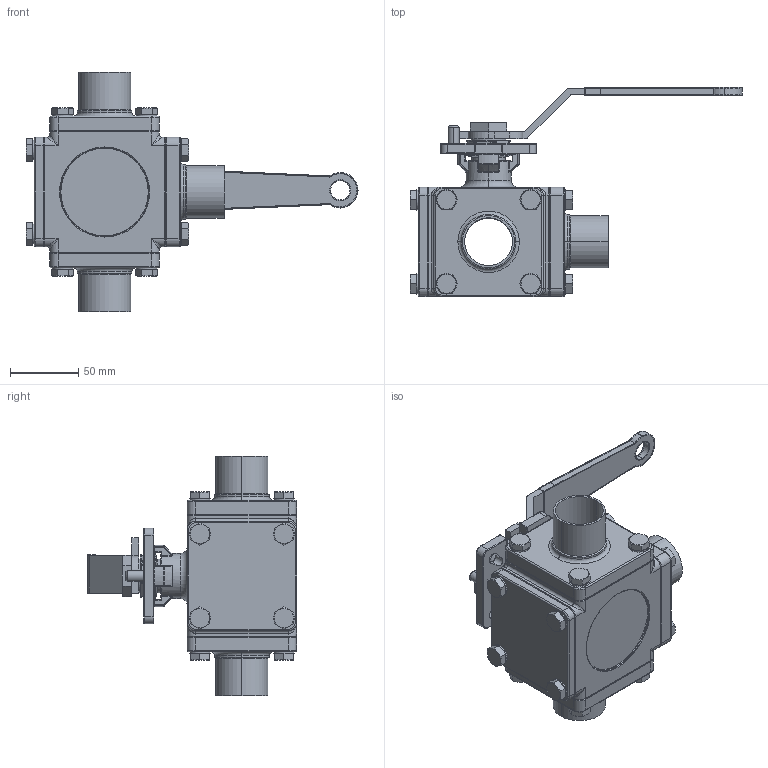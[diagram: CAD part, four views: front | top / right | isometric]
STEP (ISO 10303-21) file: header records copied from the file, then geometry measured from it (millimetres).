
FILE_DESCRIPTION (( 'STEP AP203' ), '1' );
FILE_NAME ('E93WWW-61.5-T.STEP', '2019-07-02T02:21:42', ( '' ), ( '' ), 'SwSTEP 2.0', 'SolidWorks 2014', '' );
FILE_SCHEMA (( 'CONFIG_CONTROL_DESIGN' ));
Length unit declared in the file: millimetre
Products named in the file (24): 17.LOCKING TAB1.5-2.0; 19.3WAY-CAP1.5; 10.BEVEL WASHER1.5-2.0; 8.STEM PACKING1.5-2.0; 20.SEAT BACK1.5; 13.STEM1.5-2.0; 3.3WAY-BALL-1.5-T; 16.BOLT1.5; 7.O-RING1.5-2.0; 4.SEAT1-1.5; 21.PLAIN WASHER1.5-2.0; 12.3WAY-NUT1.5-2.0; 15.SPRING WASHER1.5; 11.STOP PIN1.5-2.0; 22.SEAT-R-1.5; 18.THINNER NUT1.5-2.0; 5.GASKET1.5; 9.RING1.5-2.0; 6.THRUST WASHER1.5-2.0; 22.SEAT-L-1.5; 1.3WAY-BODY1.5; 14.HANDLE1.5-2.0; 2.3WAY-CAP-W-1.5; E93WWW-61.5-T
Assembly tree (58 placements, depth 2):
  E93WWW-61.5-T
    1.3WAY-BODY1.5
    13.STEM1.5-2.0
    6.THRUST WASHER1.5-2.0
    7.O-RING1.5-2.0
    8.STEM PACKING1.5-2.0
    9.RING1.5-2.0
    10.BEVEL WASHER1.5-2.0  x2
    18.THINNER NUT1.5-2.0
    17.LOCKING TAB1.5-2.0
    22.SEAT-L-1.5
    22.SEAT-R-1.5
    20.SEAT BACK1.5
    4.SEAT1-1.5  x2
    5.GASKET1.5  x2
    19.3WAY-CAP1.5
    15.SPRING WASHER1.5  x16
    16.BOLT1.5  x16
    21.PLAIN WASHER1.5-2.0
    14.HANDLE1.5-2.0
    12.3WAY-NUT1.5-2.0
    11.STOP PIN1.5-2.0
    3.3WAY-BALL-1.5-T
    2.3WAY-CAP-W-1.5  x3
Bounding box: 243 x 153.1 x 175 mm (x, y, z)
Volume: 847811.4 mm3; surface area: 293024.3 mm2
Topology: 59 solids, 59 shells, 1480 faces, 3337 edges, 1966 vertices
Faces by surface type: cylinder 558, plane 396, cone 234, torus 195, sphere 58, bspline 39
Entity records: 33297 total; most frequent: CARTESIAN_POINT 7242, DIRECTION 5254, ORIENTED_EDGE 4432, AXIS2_PLACEMENT_3D 2230, EDGE_CURVE 2216, VERTEX_POINT 1312, CIRCLE 1235, EDGE_LOOP 1080
